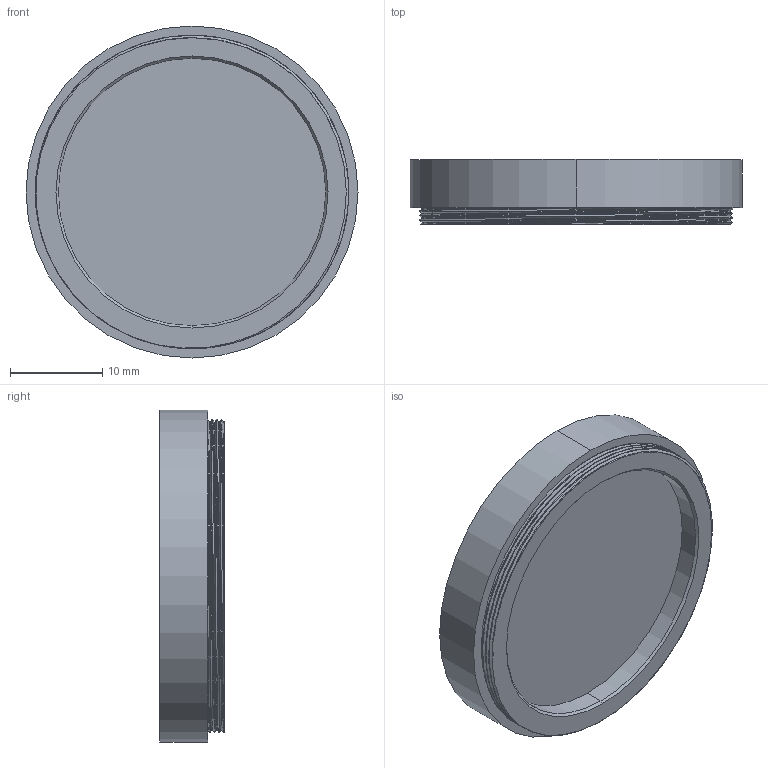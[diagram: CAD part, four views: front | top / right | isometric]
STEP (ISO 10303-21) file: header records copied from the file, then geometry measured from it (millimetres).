
FILE_DESCRIPTION (( 'STEP AP214' ), '1' );
FILE_NAME ('M34 x P0.5.STEP', '2023-01-19T08:17:49', ( '' ), ( '' ), 'SwSTEP 2.0', 'SolidWorks 2021', '' );
FILE_SCHEMA (( 'AUTOMOTIVE_DESIGN' ));
Length unit declared in the file: millimetre
Products named in the file (1): M34 x P0.5
Bounding box: 36 x 7 x 36 mm (x, y, z)
Volume: 1763.3 mm3; surface area: 4518.9 mm2
Topology: 3 solids, 3 shells, 50 faces, 121 edges, 80 vertices
Faces by surface type: cylinder 32, plane 10, bspline 6, cone 2
Entity records: 2860 total; most frequent: CARTESIAN_POINT 1765, ORIENTED_EDGE 242, DIRECTION 191, EDGE_CURVE 121, VERTEX_POINT 80, AXIS2_PLACEMENT_3D 79, EDGE_LOOP 57, FACE_OUTER_BOUND 50
